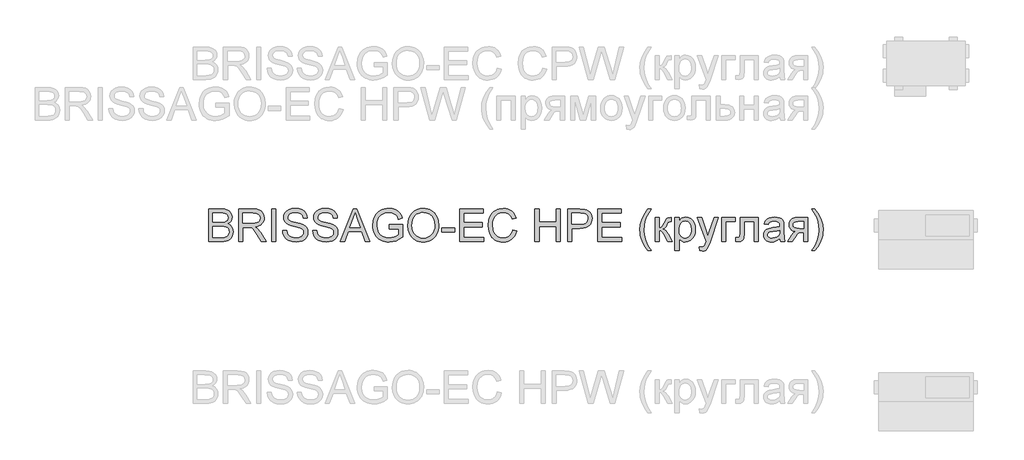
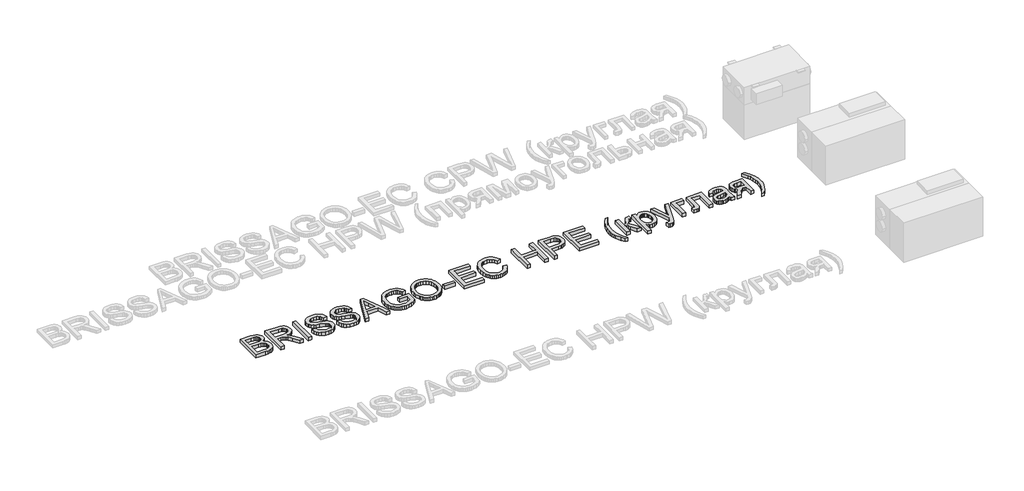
# One storey, part 8 of 28: 1 proxy.
"""IFC4 building model written with IfcOpenShell, lengths in millimetres."""

from ifc_helpers import new_model, si_unit, origin, origin_with_axes, place, context, project, spatial, polyline, outline, extrude, element, save

model = new_model("IFC4")

# Units and contexts
model_context = context("Model", 3, world=origin())
ifc_project = project(units=[si_unit("LENGTHUNIT", "METRE", prefix="MILLI")], contexts=[model_context])

# Site, building, storey
site = spatial("IfcSite", under=ifc_project)
building = spatial("IfcBuilding", under=site)
storey = spatial("IfcBuildingStorey", under=building, Name="Уровень 1", Elevation=0.0)

# Proxy
placement = place(None, origin())
element("IfcBuildingElementProxy", 1, Name="400 мм Arial", ObjectType="400 мм Arial", at=placement, inside=storey, context=model_context, shape_type="SweptSolid", body=[
    extrude(outline(polyline([(-29525.6094879, -6348.7092589), (-29525.6094879, -5946.8840183), (-29372.2762723, -5946.8840183), (-29330.1047329, -5949.839337), (-29297.1792944, -5958.705293), (-29271.9425895, -5973.7026157), (-29252.8372512, -5995.0520342), (-29240.80751, -6020.1661117), (-29236.7975962, -6046.4574116), (-29240.1698479, -6070.6517842), (-29250.2866027, -6093.3991542), (-29267.2214372, -6113.3015701), (-29291.0479278, -6128.9610804), (-29262.5861241, -6143.823513), (-29241.5555367, -6166.435993), (-29228.5693023, -6195.3024669), (-29224.2405575, -6228.9268812), (-29227.1958762, -6256.9472265), (-29236.0618322, -6282.9319581), (-29249.2933213, -6305.0294033), (-29265.3452391, -6321.3878893), (-29285.0024003, -6333.2336896), (-29309.0496201, -6341.7930773), (-29338.2717132, -6346.9802135), (-29373.4534947, -6348.7092589), (-29525.6094879, -6348.7092589)]), holes=[polyline([(-29475.3813328, -6110.1255223), (-29383.6560887, -6110.1255223), (-29330.0924702, -6105.8090402), (-29311.3427512, -6098.3655611), (-29297.8660074, -6087.2187367), (-29289.7358153, -6072.5402451), (-29287.0257513, -6054.5017646), (-29289.5518743, -6036.9905816), (-29297.1302434, -6021.7357415), (-29309.4175021, -6009.8286276), (-29326.0702937, -6002.3606231), (-29351.6258297, -5998.4242858), (-29390.6213211, -5997.1121733), (-29475.3813328, -5997.1121733), (-29475.3813328, -6110.1255223)]), polyline([(-29475.3813328, -6298.4811038), (-29372.3743742, -6298.4811038), (-29335.0956653, -6296.5190665), (-29303.5559156, -6285.5807085), (-29291.9798955, -6276.1506667), (-29282.6602183, -6263.2625341), (-29276.516589, -6247.4926593), (-29274.4687125, -6229.4173906), (-29276.8722082, -6208.4235914), (-29284.0826953, -6190.3728481), (-29296.6765223, -6176.2584423), (-29315.2300376, -6167.0736551), (-29341.5090748, -6162.0336718), (-29377.2794675, -6160.3536773), (-29475.3813328, -6160.3536773), (-29475.3813328, -6298.4811038)])]), origin_with_axes(), (0.0, 0.0, 1.0), 50.0),
    extrude(outline(polyline([(-29155.1768442, -6348.7092589), (-29155.1768442, -5946.8840183), (-28982.0270518, -5946.8840183), (-28935.4899794, -5949.5940823), (-28901.6325732, -5957.7242744), (-28876.8863776, -5972.7338598), (-28857.6829375, -5996.0821037), (-28845.3588906, -6025.0344168), (-28841.250875, -6056.8562094), (-28842.9523292, -6077.4943893), (-28848.0566919, -6096.440312), (-28856.5639631, -6113.6939776), (-28868.4741427, -6129.255386), (-28883.9405149, -6142.6278965), (-28903.1163639, -6153.3148685), (-28926.0016897, -6161.3163019), (-28952.5964922, -6166.6321967), (-28924.0488494, -6188.1165052), (-28883.3365753, -6239.8161883), (-28816.3330012, -6348.7092589), (-28874.7036111, -6348.7092589), (-28926.9919054, -6265.4207751), (-28964.7611235, -6210.2875268), (-28978.801953, -6194.2110836), (-28991.2976781, -6184.2414815), (-29015.1854823, -6174.6765497), (-29044.3217364, -6172.9107161), (-29104.9486892, -6172.9107161), (-29104.9486892, -6348.7092589), (-29155.1768442, -6348.7092589)]), holes=[polyline([(-29104.9486892, -6122.682561), (-28992.5239514, -6122.682561), (-28960.236175, -6120.9044647), (-28935.1834111, -6115.5701758), (-28916.3233275, -6106.324075), (-28902.6135918, -6092.810543), (-28894.2626705, -6076.4643197), (-28891.4790301, -6058.7201448), (-28896.7887936, -6034.2192039), (-28912.7180839, -6014.4762035), (-28924.8796496, -6006.8794403), (-28940.1252926, -6001.4531809), (-28979.8688108, -5997.1121733), (-29104.9486892, -5997.1121733), (-29104.9486892, -6122.682561)])]), origin_with_axes(), (0.0, 0.0, 1.0), 50.0),
    extrude(outline(polyline([(-28747.0730842, -6348.7092589), (-28747.0730842, -5946.8840183), (-28696.8449292, -5946.8840183), (-28696.8449292, -6348.7092589), (-28747.0730842, -6348.7092589)])), origin_with_axes(), (0.0, 0.0, 1.0), 50.0),
    extrude(outline(polyline([(-28615.2241772, -6210.5818324), (-28564.9960221, -6210.5818324), (-28559.2325375, -6238.4550249), (-28548.8092143, -6260.8590384), (-28532.5488301, -6278.6400015), (-28509.2741626, -6292.6440428), (-28480.8246216, -6301.7307281), (-28449.0396172, -6304.7596232), (-28421.0560601, -6302.4664921), (-28396.5551192, -6295.5870988), (-28376.7017542, -6284.6977917), (-28362.6609248, -6270.3749194), (-28354.3100035, -6253.9305942), (-28351.526363, -6236.6769286), (-28353.6110277, -6219.8647214), (-28359.8650216, -6205.3333826), (-28372.5692132, -6192.9357594), (-28394.0044707, -6182.5246989), (-28467.1394114, -6163.3457842), (-28515.1480118, -6150.6538554), (-28545.8661584, -6138.5750632), (-28570.8698713, -6121.6770169), (-28588.5895207, -6101.1982525), (-28599.147734, -6077.5802284), (-28602.6671384, -6051.264403), (-28598.3138681, -6021.8461061), (-28585.2540573, -5994.414372), (-28563.8310625, -5971.1642299), (-28534.3882401, -5954.2907091), (-28499.0470431, -5944.0268014), (-28459.9289243, -5940.6054989), (-28417.5489184, -5944.186217), (-28380.4664133, -5954.9283712), (-28350.0057841, -5972.6112325), (-28327.491406, -5997.0140715), (-28313.2421101, -6026.6163093), (-28307.5767273, -6059.8973672), (-28357.8048824, -6059.8973672), (-28367.0264578, -6029.9272473), (-28375.3896418, -6018.0691843), (-28386.2544234, -6008.295786), (-28416.2981197, -5995.199187), (-28457.966887, -5990.8336539), (-28500.6166729, -5995.150136), (-28516.9199767, -6000.5457386), (-28529.8755543, -6008.0995823), (-28546.7981261, -6027.1558696), (-28552.4389833, -6049.792875), (-28548.4413323, -6069.0944171), (-28536.4483793, -6084.6190373), (-28508.0969402, -6098.5004512), (-28454.4352198, -6112.6761708), (-28399.0567168, -6126.1406518), (-28365.5549298, -6137.8883502), (-28336.9214478, -6156.1107716), (-28316.9454555, -6178.6006243), (-28305.2100198, -6205.1126534), (-28301.298208, -6235.4016043), (-28305.798631, -6266.3650056), (-28319.2999003, -6295.4889969), (-28341.2501926, -6320.5540235), (-28371.0976852, -6339.3405307), (-28406.9907052, -6351.0759664), (-28447.0775799, -6354.9877782), (-28496.2879281, -6350.769398), (-28536.7917358, -6338.1142574), (-28569.0549868, -6316.9733054), (-28593.5436649, -6287.2974911), (-28609.2644889, -6251.1469537), (-28615.2241772, -6210.5818324)])), origin_with_axes(), (0.0, 0.0, 1.0), 50.0),
    extrude(outline(polyline([(-28244.7915335, -6210.5818324), (-28194.5633784, -6210.5818324), (-28188.7998938, -6238.4550249), (-28178.3765706, -6260.8590384), (-28162.1161865, -6278.6400015), (-28138.8415189, -6292.6440428), (-28110.3919779, -6301.7307281), (-28078.6069735, -6304.7596232), (-28050.6234164, -6302.4664921), (-28026.1224756, -6295.5870988), (-28006.2691106, -6284.6977917), (-27992.2282811, -6270.3749194), (-27983.8773598, -6253.9305942), (-27981.0937194, -6236.6769286), (-27983.178384, -6219.8647214), (-27989.4323779, -6205.3333826), (-28002.1365695, -6192.9357594), (-28023.5718271, -6182.5246989), (-28096.7067677, -6163.3457842), (-28144.7153681, -6150.6538554), (-28175.4335147, -6138.5750632), (-28200.4372276, -6121.6770169), (-28218.1568771, -6101.1982525), (-28228.7150903, -6077.5802284), (-28232.2344947, -6051.264403), (-28227.8812245, -6021.8461061), (-28214.8214136, -5994.414372), (-28193.3984188, -5971.1642299), (-28163.9555964, -5954.2907091), (-28128.6143994, -5944.0268014), (-28089.4962806, -5940.6054989), (-28047.1162748, -5944.186217), (-28010.0337696, -5954.9283712), (-27979.5731404, -5972.6112325), (-27957.0587623, -5997.0140715), (-27942.8094664, -6026.6163093), (-27937.1440837, -6059.8973672), (-27987.3722387, -6059.8973672), (-27996.5938141, -6029.9272473), (-28004.9569981, -6018.0691843), (-28015.8217797, -6008.295786), (-28045.865476, -5995.199187), (-28087.5342433, -5990.8336539), (-28130.1840293, -5995.150136), (-28146.487333, -6000.5457386), (-28159.4429106, -6008.0995823), (-28176.3654824, -6027.1558696), (-28182.0063397, -6049.792875), (-28178.0086886, -6069.0944171), (-28166.0157356, -6084.6190373), (-28137.6642965, -6098.5004512), (-28084.0025761, -6112.6761708), (-28028.6240731, -6126.1406518), (-27995.1222861, -6137.8883502), (-27966.4888042, -6156.1107716), (-27946.5128118, -6178.6006243), (-27934.7773762, -6205.1126534), (-27930.8655643, -6235.4016043), (-27935.3659874, -6266.3650056), (-27948.8672566, -6295.4889969), (-27970.817549, -6320.5540235), (-28000.6650415, -6339.3405307), (-28036.5580615, -6351.0759664), (-28076.6449362, -6354.9877782), (-28125.8552845, -6350.769398), (-28166.3590921, -6338.1142574), (-28198.6223431, -6316.9733054), (-28223.1110213, -6287.2974911), (-28238.8318452, -6251.1469537), (-28244.7915335, -6210.5818324)])), origin_with_axes(), (0.0, 0.0, 1.0), 50.0),
    extrude(outline(polyline([(-27902.3179215, -6348.7092589), (-27741.9213716, -5946.8840183), (-27699.1489583, -5946.8840183), (-27538.7524084, -6348.7092589), (-27591.8255175, -6348.7092589), (-27637.8352924, -6223.1388712), (-27803.3331393, -6223.1388712), (-27849.2448123, -6348.7092589), (-27902.3179215, -6348.7092589)]), holes=[polyline([(-27784.8899886, -6172.9107161), (-27656.1803412, -6172.9107161), (-27692.3799295, -6074.1221377), (-27720.5351649, -5997.1121733), (-27745.5511406, -6065.4891735), (-27784.8899886, -6172.9107161)])]), origin_with_axes(), (0.0, 0.0, 1.0), 50.0),
    extrude(outline(polyline([(-27296.7351065, -6191.7462742), (-27296.7351065, -6141.5181192), (-27133.4936025, -6141.5181192), (-27133.4936025, -6291.7120751), (-27173.1635443, -6319.3032247), (-27214.0842849, -6339.0952761), (-27256.1577224, -6351.0146527), (-27299.285755, -6354.9877782), (-27328.1369004, -6353.4089513), (-27355.6330139, -6348.6724707), (-27381.7740953, -6340.7783362), (-27406.5601448, -6329.7265479), (-27429.1910188, -6315.6826527), (-27448.8665742, -6298.8121976), (-27465.5868109, -6279.1151824), (-27479.3517289, -6256.5916073), (-27490.1030802, -6231.9619077), (-27497.7826168, -6205.9465193), (-27502.3903388, -6178.545442), (-27503.9262461, -6149.7586759), (-27497.8071423, -6093.1661623), (-27490.1582625, -6066.3506305), (-27479.4498307, -6040.5222488), (-27465.8719194, -6016.8153199), (-27449.6146009, -5996.3641466), (-27430.6778752, -5979.168729), (-27409.0617423, -5965.2290671), (-27385.2352518, -5954.456256), (-27359.6674531, -5946.7613909), (-27332.3583463, -5942.1444719), (-27303.3079314, -5940.6054989), (-27261.9334697, -5944.1739542), (-27224.7283373, -5954.8793203), (-27193.397054, -5971.9490449), (-27169.6441399, -5994.6105758), (-27152.0716432, -6023.9552962), (-27139.2816125, -6061.0745896), (-27185.585693, -6074.1221377), (-27195.9231771, -6047.6468967), (-27208.4924786, -6027.6709044), (-27225.1207447, -6012.6122681), (-27247.6351228, -6000.8890952), (-27274.4782458, -5993.3475143), (-27304.0927464, -5990.8336539), (-27338.759493, -5993.543718), (-27368.3985191, -6001.6739101), (-27392.89946, -6014.2064234), (-27412.1519511, -6030.123451), (-27426.9285446, -6048.6033899), (-27438.0017926, -6068.8246369), (-27449.7740165, -6106.7410079), (-27453.6980911, -6147.6985367), (-27448.9769388, -6195.7316625), (-27434.813482, -6235.2544515), (-27411.6369163, -6265.9848609), (-27379.8764374, -6287.6408477), (-27342.7080931, -6300.4799293), (-27303.3079314, -6304.7596232), (-27268.5185574, -6301.5345243), (-27234.5875747, -6291.8592279), (-27205.1202269, -6278.5296369), (-27183.7217575, -6264.3416546), (-27183.7217575, -6191.7462742), (-27296.7351065, -6191.7462742)])), origin_with_axes(), (0.0, 0.0, 1.0), 50.0),
    extrude(outline(polyline([(-27070.7084086, -6153.0941393), (-27067.3606825, -6105.9623243), (-27057.317504, -6064.2383747), (-27040.5788732, -6027.9222904), (-27017.1447901, -5997.0140715), (-26988.4193377, -5972.335321), (-26955.8065988, -5954.707642), (-26919.3065735, -5944.1310347), (-26878.9192618, -5940.6054989), (-26851.8860665, -5942.2609679), (-26826.2140346, -5947.2273748), (-26801.9031661, -5955.5047197), (-26778.953461, -5967.0930025), (-26758.0087127, -5981.6427354), (-26739.7127148, -5998.8044305), (-26724.0654673, -6018.5780878), (-26711.0669701, -6040.9637072), (-26700.8521134, -6065.4523853), (-26693.5557872, -6091.5352188), (-26687.7187262, -6148.4833516), (-26689.2546335, -6178.1407718), (-26693.8623555, -6206.1917739), (-26701.5418922, -6232.636358), (-26712.2932435, -6257.4745241), (-26725.8619577, -6280.0502158), (-26741.9935832, -6299.7073771), (-26760.6881199, -6316.4460079), (-26781.9455679, -6330.2661082), (-26804.9289955, -6341.0818388), (-26828.8014713, -6348.8073607), (-26853.5629953, -6353.4426739), (-26879.2135674, -6354.9877782), (-26906.7188779, -6353.2801926), (-26932.728135, -6348.1574359), (-26957.2413386, -6339.6195079), (-26980.2584887, -6327.6664087), (-27001.1787115, -6312.7610566), (-27019.401133, -6295.3663696), (-27034.9257532, -6275.4823477), (-27047.7525721, -6253.108991), (-27064.9694495, -6204.487254), (-27070.7084086, -6153.0941393)]), holes=[polyline([(-27020.4802536, -6153.5846486), (-27017.9694589, -6186.8841005), (-27010.4370751, -6216.4434189), (-26997.883102, -6242.2626036), (-26980.3075397, -6264.3416546), (-26958.9427928, -6282.0245159), (-26935.0212661, -6294.655131), (-26908.5429595, -6302.2335001), (-26879.507873, -6304.7596232), (-26849.9761458, -6302.2089747), (-26823.1851395, -6294.5570292), (-26799.1348541, -6281.8037867), (-26777.8252895, -6263.9492472), (-26760.3784859, -6241.4042122), (-26747.9164833, -6214.5794834), (-26740.4392818, -6183.4750607), (-26737.9468813, -6148.0909442), (-26742.2143124, -6103.6262737), (-26755.0166058, -6065.1948679), (-26776.0226678, -6033.7654828), (-26804.9014044, -6010.3068742), (-26839.7398293, -5995.701959), (-26878.6249562, -5990.8336539), (-26906.6514329, -5993.1789017), (-26932.6545586, -6000.2146448), (-26956.6343333, -6011.9408834), (-26978.590757, -6028.3576175), (-26996.9174118, -6050.2557932), (-27010.0078794, -6078.426357), (-27017.86216, -6112.8693088), (-27020.4802536, -6153.5846486)])]), origin_with_axes(), (0.0, 0.0, 1.0), 50.0),
    extrude(outline(polyline([(-26650.0476099, -6229.4173906), (-26650.0476099, -6179.1892355), (-26493.0846253, -6179.1892355), (-26493.0846253, -6229.4173906), (-26650.0476099, -6229.4173906)])), origin_with_axes(), (0.0, 0.0, 1.0), 50.0),
    extrude(outline(polyline([(-26430.2994314, -6348.7092589), (-26430.2994314, -5946.8840183), (-26141.4875397, -5946.8840183), (-26141.4875397, -5997.1121733), (-26380.0712763, -5997.1121733), (-26380.0712763, -6116.4040416), (-26154.0445785, -6116.4040416), (-26154.0445785, -6166.6321967), (-26380.0712763, -6166.6321967), (-26380.0712763, -6298.4811038), (-26135.2090204, -6298.4811038), (-26135.2090204, -6348.7092589), (-26430.2994314, -6348.7092589)])), origin_with_axes(), (0.0, 0.0, 1.0), 50.0),
    extrude(outline(polyline([(-25777.3334155, -6205.8729429), (-25727.1052604, -6218.8223891), (-25737.0442056, -6250.0586362), (-25750.2818261, -6277.3524145), (-25766.8181218, -6300.7037242), (-25786.6530927, -6320.1125651), (-25809.339149, -6335.3704708), (-25834.4287011, -6346.268975), (-25861.9217489, -6352.8080774), (-25891.8182924, -6354.9877782), (-25922.4475341, -6353.3384406), (-25950.0785377, -6348.3904278), (-25974.7113029, -6340.1437397), (-25996.3458299, -6328.5983765), (-26015.2794899, -6313.9260162), (-26031.8096542, -6296.2983373), (-26045.9363229, -6275.7153396), (-26057.6594958, -6252.1770233), (-26073.4416334, -6200.305662), (-26078.7023459, -6144.7554807), (-26072.7549203, -6086.1641416), (-26065.3206383, -6059.8667103), (-26054.9126435, -6035.5681046), (-26041.7639279, -6013.6699288), (-26026.1074833, -5994.5737876), (-26007.9433098, -5978.2796809), (-25987.2714074, -5964.7876087), (-25964.7938175, -5954.2079356), (-25941.2125816, -5946.6510263), (-25890.7391718, -5940.6054989), (-25862.0106537, -5942.5614048), (-25835.6672372, -5948.4291226), (-25811.7089222, -5958.2086523), (-25790.1357089, -5971.8999939), (-25771.3032164, -5989.1413968), (-25755.5670641, -6009.5711102), (-25742.9272519, -6033.1891343), (-25733.3837798, -6059.995469), (-25783.6119348, -6071.9638966), (-25801.0250159, -6035.3351126), (-25824.8147183, -6010.2087724), (-25855.2753475, -5995.6774336), (-25892.7012091, -5990.8336539), (-25935.8415044, -5996.2047311), (-25954.5237784, -6002.9185775), (-25971.2808033, -6012.3179625), (-25998.1729772, -6037.4810909), (-26015.6718974, -6070.0018593), (-26025.2736175, -6106.7655334), (-26028.4741908, -6144.6573789), (-26024.6850063, -6191.0595612), (-26013.3174526, -6231.1832241), (-25993.9423342, -6263.495526), (-25966.1304554, -6286.4636253), (-25932.7880839, -6300.1856237), (-25896.8214875, -6304.7596232), (-25874.9846254, -6303.2022561), (-25854.8952028, -6298.5301547), (-25836.5532196, -6290.7433192), (-25819.958676, -6279.8417494), (-25805.5039792, -6265.8744963), (-25793.5815369, -6248.8906108), (-25784.191349, -6228.890093), (-25777.3334155, -6205.8729429)])), origin_with_axes(), (0.0, 0.0, 1.0), 50.0),
    extrude(outline(polyline([(-25501.0785625, -6348.7092589), (-25501.0785625, -5946.8840183), (-25450.8504075, -5946.8840183), (-25450.8504075, -6110.1255223), (-25237.3807484, -6110.1255223), (-25237.3807484, -5946.8840183), (-25187.1525933, -5946.8840183), (-25187.1525933, -6348.7092589), (-25237.3807484, -6348.7092589), (-25237.3807484, -6160.3536773), (-25450.8504075, -6160.3536773), (-25450.8504075, -6348.7092589), (-25501.0785625, -6348.7092589)])), origin_with_axes(), (0.0, 0.0, 1.0), 50.0),
    extrude(outline(polyline([(-25099.2533219, -6348.7092589), (-25099.2533219, -5946.8840183), (-24950.3346903, -5946.8840183), (-24890.2963487, -5950.709991), (-24863.5268022, -5957.8591644), (-24841.4906707, -5969.4964982), (-24823.7464958, -5986.1492899), (-24809.8528191, -6008.3448369), (-24800.8764984, -6034.5257722), (-24797.8843915, -6063.1347287), (-24799.9046768, -6087.8012165), (-24805.9655327, -6110.4934042), (-24816.0669591, -6131.2112919), (-24830.2089561, -6149.9548796), (-24849.6239284, -6165.4917625), (-24875.5442807, -6176.589536), (-24907.9700129, -6183.2482002), (-24946.901125, -6185.4677549), (-25049.0251669, -6185.4677549), (-25049.0251669, -6348.7092589), (-25099.2533219, -6348.7092589)]), holes=[polyline([(-25049.0251669, -6135.2395998), (-24943.958069, -6135.2395998), (-24899.4198222, -6130.6288121), (-24882.8160814, -6124.8653275), (-24869.9892625, -6116.7964491), (-24860.4181993, -6106.6367747), (-24853.5817256, -6094.6009021), (-24848.1125466, -6064.9005623), (-24851.3376454, -6042.3371333), (-24861.0129419, -6023.3053714), (-24875.9366881, -6008.982499), (-24894.9071364, -6000.5457386), (-24945.1352914, -5997.1121733), (-25049.0251669, -5997.1121733), (-25049.0251669, -6135.2395998)])]), origin_with_axes(), (0.0, 0.0, 1.0), 50.0),
    extrude(outline(polyline([(-24728.8206783, -6348.7092589), (-24728.8206783, -5946.8840183), (-24440.0087866, -5946.8840183), (-24440.0087866, -5997.1121733), (-24678.5925232, -5997.1121733), (-24678.5925232, -6116.4040416), (-24452.5658254, -6116.4040416), (-24452.5658254, -6166.6321967), (-24678.5925232, -6166.6321967), (-24678.5925232, -6298.4811038), (-24433.7302672, -6298.4811038), (-24433.7302672, -6348.7092589), (-24728.8206783, -6348.7092589)])), origin_with_axes(), (0.0, 0.0, 1.0), 50.0),
    extrude(outline(polyline([(-24107.2472592, -6461.7226078), (-24146.1691743, -6407.1043942), (-24178.5673153, -6343.9022675), (-24191.3144265, -6309.8486574), (-24200.4195059, -6275.1819108), (-24205.8825535, -6239.9020274), (-24207.7035694, -6204.0090074), (-24202.2589158, -6141.5916956), (-24185.9249552, -6081.872185), (-24153.5022887, -6014.2309488), (-24107.2472592, -5946.8840183), (-24069.5761429, -5946.8840183), (-24116.5669364, -6026.4446311), (-24132.6065914, -6064.2138493), (-24144.8202737, -6103.5526973), (-24154.3116291, -6153.8053778), (-24157.4754143, -6204.303313), (-24151.9817098, -6268.6949249), (-24135.5005964, -6333.0620113), (-24108.0320741, -6397.4045723), (-24069.5761429, -6461.7226078), (-24107.2472592, -6461.7226078)])), origin_with_axes(), (0.0, 0.0, 1.0), 50.0),
    extrude(outline(polyline([(-24019.3479878, -6053.6188478), (-23969.1198328, -6053.6188478), (-23969.1198328, -6179.1892355), (-23948.6901193, -6176.9328926), (-23935.4708929, -6170.1638639), (-23923.7722455, -6152.5055281), (-23907.9042688, -6117.581264), (-23884.9974832, -6072.2091513), (-23875.5551787, -6063.0488896), (-23864.7884989, -6057.4448205), (-23828.0493503, -6053.6188478), (-23818.4353675, -6053.6188478), (-23818.4353675, -6104.1413085), (-23831.973425, -6103.8470029), (-23847.6697234, -6105.1713781), (-23856.4988913, -6109.1445036), (-23873.7648196, -6142.2048322), (-23884.3720838, -6164.2409637), (-23894.0228548, -6177.9629622), (-23905.7092395, -6187.1232238), (-23922.4233448, -6195.4741451), (-23906.5063172, -6202.5436108), (-23890.7364423, -6215.0209418), (-23875.1137203, -6232.9061381), (-23859.638151, -6256.1991998), (-23805.8783288, -6348.7092589), (-23862.9736144, -6348.7092589), (-23915.6543161, -6258.1612371), (-23929.8790866, -6234.0649664), (-23942.1418198, -6219.8524587), (-23954.5271803, -6212.899489), (-23969.1198328, -6210.5818324), (-23969.1198328, -6348.7092589), (-24019.3479878, -6348.7092589), (-24019.3479878, -6053.6188478)])), origin_with_axes(), (0.0, 0.0, 1.0), 50.0),
    extrude(outline(polyline([(-23774.4857318, -6461.7226078), (-23774.4857318, -6053.6188478), (-23724.2575768, -6053.6188478), (-23724.2575768, -6102.8659842), (-23707.8745653, -6078.5735098), (-23689.5295164, -6061.2217424), (-23668.1433098, -6050.8106819), (-23642.6368248, -6047.3403284), (-23608.6690539, -6052.1963707), (-23578.9687141, -6066.7644978), (-23554.7866043, -6090.1617926), (-23537.3735232, -6121.5053386), (-23526.8520982, -6158.5142674), (-23523.3449565, -6198.9077104), (-23527.3058193, -6241.8640647), (-23539.1884077, -6280.2832078), (-23558.6125771, -6312.2153649), (-23585.1981826, -6335.7107617), (-23616.1615839, -6350.1685241), (-23648.7191404, -6354.9877782), (-23671.809867, -6351.7626794), (-23692.4235215, -6342.0873829), (-23710.0695945, -6327.4824677), (-23724.2575768, -6309.4685127), (-23724.2575768, -6461.7226078), (-23774.4857318, -6461.7226078)]), holes=[polyline([(-23724.2575768, -6203.5184981), (-23718.825186, -6248.5472543), (-23712.0346975, -6265.9848609), (-23702.5280136, -6280.0379531), (-23678.4807938, -6298.5792056), (-23664.7189415, -6303.2145188), (-23649.7982609, -6304.7596232), (-23634.6629825, -6303.1593365), (-23620.6497442, -6298.3584765), (-23607.7585459, -6290.3570431), (-23595.9893878, -6279.1550363), (-23586.1822669, -6264.5930407), (-23579.1771806, -6246.5116406), (-23574.9741288, -6224.9108361), (-23573.5731115, -6199.7906272), (-23579.0422905, -6155.0071257), (-23585.8787643, -6137.434629), (-23595.4498275, -6123.0749685), (-23619.4602591, -6103.9451047), (-23633.0657615, -6099.1626388), (-23647.7381218, -6097.5684835), (-23662.3644968, -6099.2638063), (-23676.1263491, -6104.3497749), (-23701.0564856, -6124.6936493), (-23711.206963, -6139.7921395), (-23718.457304, -6157.9624444), (-23722.8075086, -6179.2045639), (-23724.2575768, -6203.5184981)])]), origin_with_axes(), (0.0, 0.0, 1.0), 50.0),
    extrude(outline(polyline([(-23466.838282, -6461.7226078), (-23473.1168014, -6413.3583881), (-23447.6103164, -6417.7729721), (-23434.1948863, -6416.3872832), (-23423.7715631, -6412.2302167), (-23409.1543852, -6396.7791729), (-23395.420124, -6359.7947696), (-23391.4960494, -6347.6301383), (-23498.2308789, -6053.6188478), (-23445.2558716, -6053.6188478), (-23388.6510953, -6217.448963), (-23368.9326204, -6282.9810091), (-23349.2141454, -6225.1009085), (-23291.0397392, -6053.6188478), (-23238.4571394, -6053.6188478), (-23341.1697925, -6355.7725932), (-23367.8534998, -6421.3046392), (-23381.5141846, -6442.224862), (-23396.9897539, -6456.7194126), (-23414.9669207, -6465.1806985), (-23436.1323981, -6468.0011272), (-23466.838282, -6461.7226078)])), origin_with_axes(), (0.0, 0.0, 1.0), 50.0),
    extrude(outline(polyline([(-23196.8619485, -6053.6188478), (-23033.6204445, -6053.6188478), (-23033.6204445, -6103.8470029), (-23146.6337934, -6103.8470029), (-23146.6337934, -6348.7092589), (-23196.8619485, -6348.7092589), (-23196.8619485, -6053.6188478)])), origin_with_axes(), (0.0, 0.0, 1.0), 50.0),
    extrude(outline(polyline([(-22970.8352506, -6053.6188478), (-22744.8085528, -6053.6188478), (-22744.8085528, -6348.4149533), (-22795.0367079, -6348.4149533), (-22795.0367079, -6103.8470029), (-22920.6070956, -6103.8470029), (-22920.6070956, -6244.6231797), (-22923.9916099, -6309.5666146), (-22930.331443, -6324.2696316), (-22942.5819134, -6336.9860859), (-22961.1722169, -6345.7784656), (-22986.5315491, -6348.7092589), (-23027.3419251, -6346.1586104), (-23027.3419251, -6298.4811038), (-23004.8765979, -6298.4811038), (-22982.1660161, -6295.390895), (-22973.0915936, -6285.5807085), (-22970.8352506, -6241.7782256), (-22970.8352506, -6053.6188478)])), origin_with_axes(), (0.0, 0.0, 1.0), 50.0),
    extrude(outline(polyline([(-22481.1107387, -6311.0381426), (-22505.1089075, -6331.6150088), (-22529.8183148, -6345.0794898), (-22555.8030464, -6352.5107061), (-22583.627188, -6354.9877782), (-22605.9913476, -6353.4978562), (-22625.6025236, -6349.0280899), (-22642.4607161, -6341.5784795), (-22656.5659249, -6331.149025), (-22667.7035523, -6318.4019138), (-22675.6590005, -6303.9993337), (-22680.4322693, -6287.9412846), (-22682.023359, -6270.2277666), (-22679.6198633, -6249.4056456), (-22672.4093762, -6230.4965111), (-22661.2870772, -6214.3097033), (-22647.1481458, -6201.6545627), (-22630.5321424, -6192.0896308), (-22611.9786271, -6185.1734493), (-22568.5195007, -6177.6196056), (-22517.1631742, -6169.6733545), (-22481.4050443, -6160.3536773), (-22481.1107387, -6149.1700647), (-22484.5688294, -6126.7537884), (-22494.9431017, -6112.0875596), (-22518.1441928, -6101.1982525), (-22550.4687575, -6097.5684835), (-22580.3898264, -6099.9842419), (-22601.2855238, -6107.2315172), (-22615.5348197, -6120.6346846), (-22625.5166845, -6141.5181192), (-22675.7448396, -6135.2395998), (-22667.0260363, -6107.7710775), (-22654.0152764, -6086.1886671), (-22635.4985493, -6069.6830282), (-22610.2618444, -6057.4448205), (-22579.396545, -6049.8664514), (-22543.9940344, -6047.3403284), (-22510.0385262, -6049.5721458), (-22483.1218269, -6056.2675982), (-22462.8270035, -6066.3353021), (-22448.7371231, -6078.6838744), (-22439.3929204, -6093.9509772), (-22433.3351302, -6112.7742726), (-22430.8825836, -6156.7239083), (-22430.8825836, -6219.2147966), (-22428.3319351, -6306.4764058), (-22418.3255448, -6348.7092589), (-22468.5536999, -6348.7092589), (-22476.5980529, -6331.2471268), (-22481.1107387, -6311.0381426)]), holes=[polyline([(-22481.1107387, -6210.5818324), (-22514.8577804, -6218.9450164), (-22562.1428795, -6225.9838253), (-22605.3567512, -6234.1262801), (-22616.6016775, -6239.693561), (-22624.9280733, -6247.3700319), (-22630.0784212, -6256.5670818), (-22631.7952039, -6266.6960994), (-22628.0550703, -6281.6321084), (-22616.8346694, -6293.8703161), (-22598.379256, -6302.0372964), (-22572.9340847, -6304.7596232), (-22545.9560717, -6301.7552535), (-22522.1173184, -6292.7421447), (-22502.7912509, -6279.4616046), (-22489.3512954, -6263.6549416), (-22483.391607, -6247.3700319), (-22481.4050443, -6224.8066029), (-22481.1107387, -6210.5818324)])]), origin_with_axes(), (0.0, 0.0, 1.0), 50.0),
    extrude(outline(polyline([(-22135.7921725, -6053.6188478), (-22135.7921725, -6348.7092589), (-22186.0203276, -6348.7092589), (-22186.0203276, -6235.6959099), (-22213.390748, -6235.6959099), (-22235.2184131, -6237.2900653), (-22250.6694569, -6242.0725312), (-22265.556415, -6255.9784706), (-22285.6918228, -6284.9430464), (-22325.7173839, -6348.7092589), (-22383.7936882, -6348.7092589), (-22333.3693294, -6268.0695255), (-22311.100206, -6239.1294752), (-22290.5969161, -6226.2781309), (-22324.932569, -6215.7567058), (-22338.2744227, -6206.945932), (-22349.0656279, -6195.7684507), (-22363.3394493, -6169.1828452), (-22368.0973897, -6138.8693688), (-22366.4725776, -6120.7818374), (-22361.5981412, -6104.484665), (-22353.4740804, -6089.9778516), (-22342.1003954, -6077.2613973), (-22327.6487644, -6066.9177819), (-22310.2908656, -6059.5294852), (-22290.026699, -6055.0965071), (-22266.8562647, -6053.6188478), (-22135.7921725, -6053.6188478)]), holes=[polyline([(-22186.0203276, -6103.8470029), (-22252.2390867, -6103.8470029), (-22286.4398496, -6106.7532706), (-22305.8517562, -6115.4720739), (-22314.864865, -6128.0904264), (-22317.8692347, -6142.6953416), (-22313.442388, -6161.837468), (-22300.161848, -6175.1180081), (-22275.6241189, -6182.8803182), (-22237.4257051, -6185.4677549), (-22186.0203276, -6185.4677549), (-22186.0203276, -6103.8470029)])]), origin_with_axes(), (0.0, 0.0, 1.0), 50.0),
    extrude(outline(polyline([(-22047.8929011, -6461.7226078), (-22085.5640175, -6461.7226078), (-22047.1080862, -6397.4045723), (-22019.6395639, -6333.0620113), (-22003.1584505, -6268.6949249), (-21997.6647461, -6204.303313), (-22000.8285312, -6154.1732598), (-22010.3198867, -6104.4356141), (-22022.3128397, -6065.0231896), (-22038.2789183, -6027.229446), (-22085.5640175, -5946.8840183), (-22047.8929011, -5946.8840183), (-22001.6378716, -6014.2309488), (-21969.2152051, -6081.872185), (-21952.8812445, -6141.5916956), (-21947.436591, -6204.0090074), (-21949.2668039, -6239.9020274), (-21954.7574427, -6275.1819108), (-21963.9085073, -6309.8486574), (-21976.7199978, -6343.9022675), (-22009.1549271, -6407.1043942), (-22047.8929011, -6461.7226078)])), origin_with_axes(), (0.0, 0.0, 1.0), 50.0),
])

save(model, "model.ifc")
